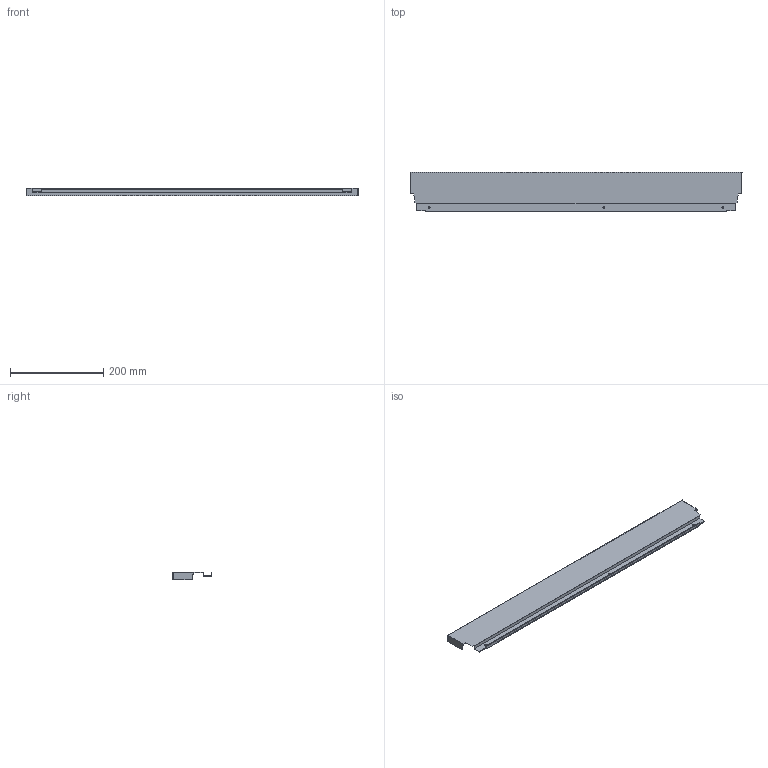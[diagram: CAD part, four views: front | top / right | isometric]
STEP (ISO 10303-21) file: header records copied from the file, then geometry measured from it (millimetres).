
FILE_DESCRIPTION (( 'STEP AP214' ), '1' );
FILE_NAME ('_DWD_XP Stahlrückwand_H86_KAB800_S19.step', '2010-07-08T12:10:37', ( 'grass' ), ( '' ), 'SwSTEP 2.0', 'SolidWorks 2010', '' );
FILE_SCHEMA (( 'AUTOMOTIVE_DESIGN' ));
Length unit declared in the file: millimetre
Products named in the file (1): _DWD_XP Stahlrückwand_H86_KAB800_S19
Bounding box: 713 x 85.79 x 16 mm (x, y, z)
Volume: 76277.5 mm3; surface area: 165766.3 mm2
Topology: 1 solids, 1 shells, 50 faces, 144 edges, 96 vertices
Faces by surface type: plane 44, cylinder 6
Entity records: 1666 total; most frequent: CARTESIAN_POINT 291, ORIENTED_EDGE 288, DIRECTION 258, EDGE_CURVE 144, VECTOR 132, LINE 132, VERTEX_POINT 96, AXIS2_PLACEMENT_3D 63
